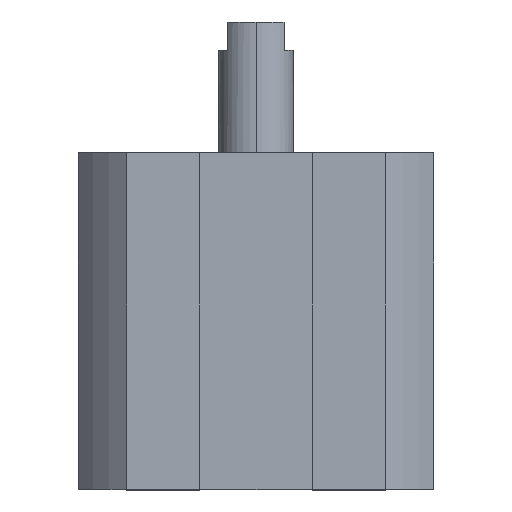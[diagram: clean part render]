
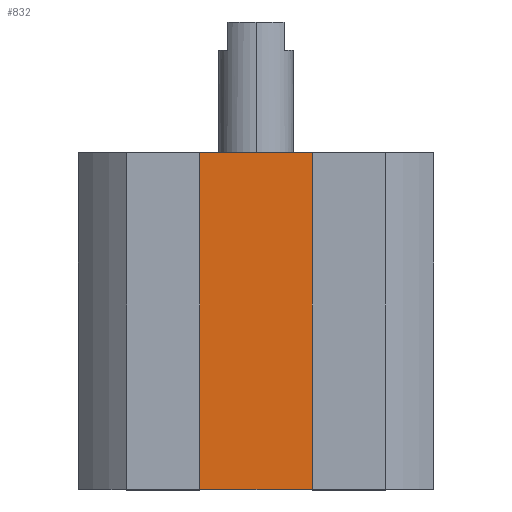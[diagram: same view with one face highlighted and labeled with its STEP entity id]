
A CAD part, top view. The second image highlights one B-rep face of the part: STEP entity #832.
In plain terms, the highlighted planar face has unit normal (0, 0, 1).
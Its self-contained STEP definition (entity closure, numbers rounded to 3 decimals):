
#10 = ORIENTED_EDGE ( 'NONE', *, *, #2422, .T. ) ;
#120 = LINE ( 'NONE', #1879, #2549 ) ;
#126 = VERTEX_POINT ( 'NONE', #180 ) ;
#175 = EDGE_CURVE ( 'NONE', #1736, #2626, #120, .T. ) ;
#176 = DIRECTION ( 'NONE',  ( 0., 1., 0. ) ) ;
#180 = CARTESIAN_POINT ( 'NONE',  ( 7.75, -36., 12.75 ) ) ;
#257 = ORIENTED_EDGE ( 'NONE', *, *, #175, .F. ) ;
#303 = LINE ( 'NONE', #1590, #456 ) ;
#456 = VECTOR ( 'NONE', #1183, 1000. ) ;
#467 = PLANE ( 'NONE',  #1823 ) ;
#717 = CARTESIAN_POINT ( 'NONE',  ( -7.75, 0., 12.75 ) ) ;
#832 = ADVANCED_FACE ( 'NONE', ( #1915 ), #467, .T. ) ;
#873 = VECTOR ( 'NONE', #1033, 1000. ) ;
#1033 = DIRECTION ( 'NONE',  ( 1., 0., 0. ) ) ;
#1090 = DIRECTION ( 'NONE',  ( 0., 0., 1. ) ) ;
#1171 = ORIENTED_EDGE ( 'NONE', *, *, #1907, .T. ) ;
#1183 = DIRECTION ( 'NONE',  ( 1., 0., 0. ) ) ;
#1202 = CARTESIAN_POINT ( 'NONE',  ( 7.75, -36., 12.75 ) ) ;
#1304 = CARTESIAN_POINT ( 'NONE',  ( -7.75, -36., 12.75 ) ) ;
#1360 = EDGE_LOOP ( 'NONE', ( #2492, #257, #10, #1171 ) ) ;
#1442 = VERTEX_POINT ( 'NONE', #1787 ) ;
#1458 = EDGE_CURVE ( 'NONE', #2626, #1442, #303, .T. ) ;
#1560 = LINE ( 'NONE', #1202, #1727 ) ;
#1590 = CARTESIAN_POINT ( 'NONE',  ( 0., 0., 12.75 ) ) ;
#1727 = VECTOR ( 'NONE', #176, 1000. ) ;
#1736 = VERTEX_POINT ( 'NONE', #1304 ) ;
#1787 = CARTESIAN_POINT ( 'NONE',  ( 7.75, 0., 12.75 ) ) ;
#1823 = AXIS2_PLACEMENT_3D ( 'NONE', #1906, #1090, #1922 ) ;
#1879 = CARTESIAN_POINT ( 'NONE',  ( -7.75, -36., 12.75 ) ) ;
#1906 = CARTESIAN_POINT ( 'NONE',  ( 0., -36., 12.75 ) ) ;
#1907 = EDGE_CURVE ( 'NONE', #126, #1442, #1560, .T. ) ;
#1915 = FACE_OUTER_BOUND ( 'NONE', #1360, .T. ) ;
#1922 = DIRECTION ( 'NONE',  ( 1., 0., 0. ) ) ;
#1969 = LINE ( 'NONE', #2619, #873 ) ;
#2286 = DIRECTION ( 'NONE',  ( 0., 1., 0. ) ) ;
#2422 = EDGE_CURVE ( 'NONE', #1736, #126, #1969, .T. ) ;
#2492 = ORIENTED_EDGE ( 'NONE', *, *, #1458, .F. ) ;
#2549 = VECTOR ( 'NONE', #2286, 1000. ) ;
#2619 = CARTESIAN_POINT ( 'NONE',  ( 0., -36., 12.75 ) ) ;
#2626 = VERTEX_POINT ( 'NONE', #717 ) ;
